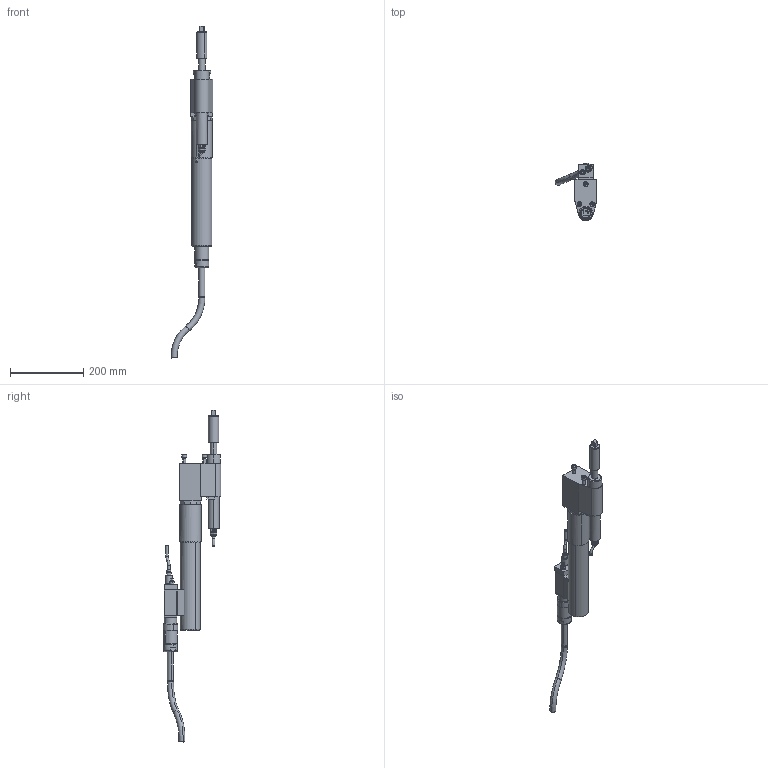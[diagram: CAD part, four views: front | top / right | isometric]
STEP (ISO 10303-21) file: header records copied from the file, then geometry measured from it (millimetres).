
FILE_DESCRIPTION(('CATIA V5 STEP Exchange'),'2;1');
FILE_NAME('C:\pro\7920175_ECR220_AOD225-200_AllCATPart.stp','2008-11-10T09:30:12+00:00',('none'),('none'),'CATIA Version 5 Release 17 (IN-10)','CATIA V5 STEP AP203','none');
FILE_SCHEMA(('CONFIG_CONTROL_DESIGN'));
Length unit declared in the file: millimetre
Products named in the file (1): 7920175_ECR220_AOD225-200_AllCATPart
Bounding box: 113.82 x 157.63 x 907.66 mm (x, y, z)
Volume: 1972377.9 mm3; surface area: 212472.5 mm2
Topology: 17 solids, 17 shells, 390 faces, 858 edges, 529 vertices
Faces by surface type: plane 179, cylinder 127, cone 46, torus 38
Entity records: 9959 total; most frequent: CARTESIAN_POINT 1949, ORIENTED_EDGE 1696, DIRECTION 1382, EDGE_CURVE 848, AXIS2_PLACEMENT_3D 668, VERTEX_POINT 529, VECTOR 432, LINE 432
